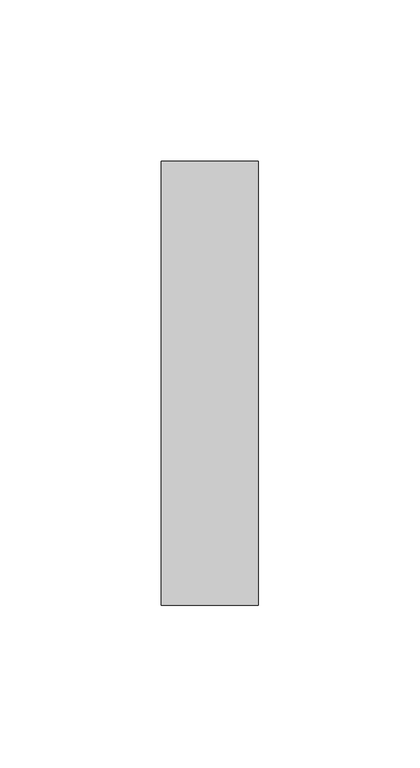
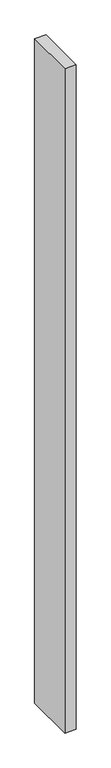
"""IFC4 building model written with IfcOpenShell, lengths in millimetres: furniture geometry, Divisoria_Lateral Fechada : Divisoria_Lateral Fechada_130x180."""

from ifc_helpers import new_model, si_unit, frame, origin, place, context, project, spatial, polyline, outline, extrude, source, transform, mapped, element, save


def furniture_bcf798da(model_context):
    return source(origin(), model_context, "Body", "SweptSolid", [
        extrude(outline(polyline([(59.7003264, -50.0), (29.7003264, -50.0), (29.7003264, 87.4974815), (59.7003264, 87.4974815), (59.7003264, -50.0)])), frame((0.0, 0.0, 50.0), z_axis=(0.0, 0.0, 1.0), x_axis=(1.0, 0.0, 0.0)), (0.0, 0.0, 1.0), 1850.0),
    ])


if __name__ == "__main__":
    model = new_model("IFC4")
    model_context = context("Model", 3, world=origin())
    ifc_project = project(units=[si_unit("LENGTHUNIT", "METRE", prefix="MILLI")], contexts=[model_context])
    site = spatial("IfcSite", under=ifc_project)
    building = spatial("IfcBuilding", under=site)
    placement = place(None, origin())
    furniture_shape = furniture_bcf798da(model_context)
    element("IfcFurniture", 1, ObjectType="Divisoria_Lateral Fechada : Divisoria_Lateral Fechada_130x180", at=placement, inside=building, context=model_context, shape_type="MappedRepresentation", body=[
        mapped(furniture_shape, transform((0.0, 0.0, 0.0), x_axis=(1.0, 0.0, 0.0), y_axis=(0.0, 1.0, 0.0), z_axis=(0.0, 0.0, 1.0))),
    ])
    save(model, "model.ifc")
